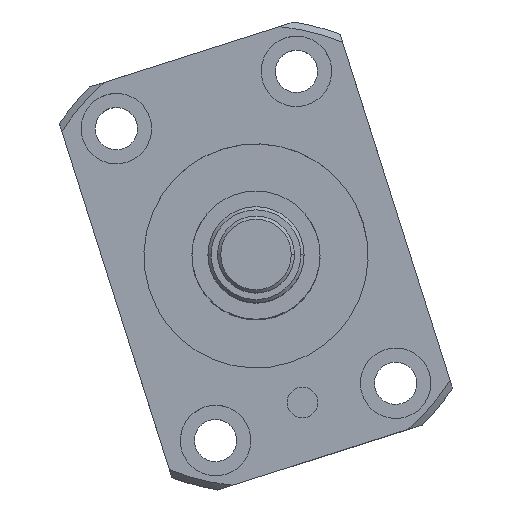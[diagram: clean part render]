
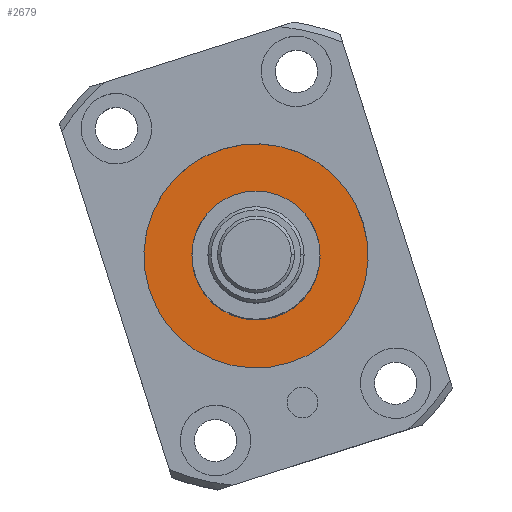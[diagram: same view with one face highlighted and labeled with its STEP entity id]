
A CAD part, top view. The second image highlights one B-rep face of the part: STEP entity #2679.
In plain terms, the highlighted planar face has unit normal (0, 0, 1).
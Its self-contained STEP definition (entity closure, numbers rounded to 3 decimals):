
#81 = ORIENTED_EDGE ( 'NONE', *, *, #1512, .T. ) ;
#155 = ORIENTED_EDGE ( 'NONE', *, *, #1798, .T. ) ;
#195 = VERTEX_POINT ( 'NONE', #3187 ) ;
#201 = ORIENTED_EDGE ( 'NONE', *, *, #1609, .T. ) ;
#253 = AXIS2_PLACEMENT_3D ( 'NONE', #2114, #478, #2404 ) ;
#291 = ORIENTED_EDGE ( 'NONE', *, *, #524, .T. ) ;
#300 = CIRCLE ( 'NONE', #1616, 10. ) ;
#398 = FACE_OUTER_BOUND ( 'NONE', #3521, .T. ) ;
#402 = VERTEX_POINT ( 'NONE', #1368 ) ;
#478 = DIRECTION ( 'NONE',  ( 0., 0., -1. ) ) ;
#524 = EDGE_CURVE ( 'NONE', #3034, #195, #2680, .T. ) ;
#569 = CARTESIAN_POINT ( 'NONE',  ( 0., 0., -7. ) ) ;
#571 = CIRCLE ( 'NONE', #1743, 17.5 ) ;
#592 = CARTESIAN_POINT ( 'NONE',  ( 0., 0., -7. ) ) ;
#611 = CARTESIAN_POINT ( 'NONE',  ( 0., 0., -7. ) ) ;
#669 = AXIS2_PLACEMENT_3D ( 'NONE', #2252, #3356, #1732 ) ;
#846 = DIRECTION ( 'NONE',  ( 1., 0., 0. ) ) ;
#876 = DIRECTION ( 'NONE',  ( 1., 0., 0. ) ) ;
#888 = DIRECTION ( 'NONE',  ( 1., 0., 0. ) ) ;
#1368 = CARTESIAN_POINT ( 'NONE',  ( 17.5, 0., -7. ) ) ;
#1383 = AXIS2_PLACEMENT_3D ( 'NONE', #592, #2511, #876 ) ;
#1512 = EDGE_CURVE ( 'NONE', #402, #2313, #571, .T. ) ;
#1609 = EDGE_CURVE ( 'NONE', #195, #3034, #300, .T. ) ;
#1616 = AXIS2_PLACEMENT_3D ( 'NONE', #611, #2521, #888 ) ;
#1732 = DIRECTION ( 'NONE',  ( 1., 0., 0. ) ) ;
#1736 = CARTESIAN_POINT ( 'NONE',  ( -17.5, 0., -7. ) ) ;
#1743 = AXIS2_PLACEMENT_3D ( 'NONE', #569, #2489, #846 ) ;
#1798 = EDGE_CURVE ( 'NONE', #2313, #402, #2950, .T. ) ;
#2046 = CARTESIAN_POINT ( 'NONE',  ( 10., 0., -7. ) ) ;
#2114 = CARTESIAN_POINT ( 'NONE',  ( 0., 0., -7. ) ) ;
#2252 = CARTESIAN_POINT ( 'NONE',  ( 0., 0., -7. ) ) ;
#2313 = VERTEX_POINT ( 'NONE', #1736 ) ;
#2404 = DIRECTION ( 'NONE',  ( 1., 0., 0. ) ) ;
#2489 = DIRECTION ( 'NONE',  ( 0., 0., 1. ) ) ;
#2511 = DIRECTION ( 'NONE',  ( 0., 0., 1. ) ) ;
#2521 = DIRECTION ( 'NONE',  ( 0., 0., -1. ) ) ;
#2529 = FACE_BOUND ( 'NONE', #2807, .T. ) ;
#2679 = ADVANCED_FACE ( 'NONE', ( #398, #2529 ), #3079, .T. ) ;
#2680 = CIRCLE ( 'NONE', #253, 10. ) ;
#2807 = EDGE_LOOP ( 'NONE', ( #201, #291 ) ) ;
#2950 = CIRCLE ( 'NONE', #1383, 17.5 ) ;
#3034 = VERTEX_POINT ( 'NONE', #2046 ) ;
#3079 = PLANE ( 'NONE',  #669 ) ;
#3187 = CARTESIAN_POINT ( 'NONE',  ( -10., 0., -7. ) ) ;
#3356 = DIRECTION ( 'NONE',  ( 0., 0., 1. ) ) ;
#3521 = EDGE_LOOP ( 'NONE', ( #81, #155 ) ) ;
